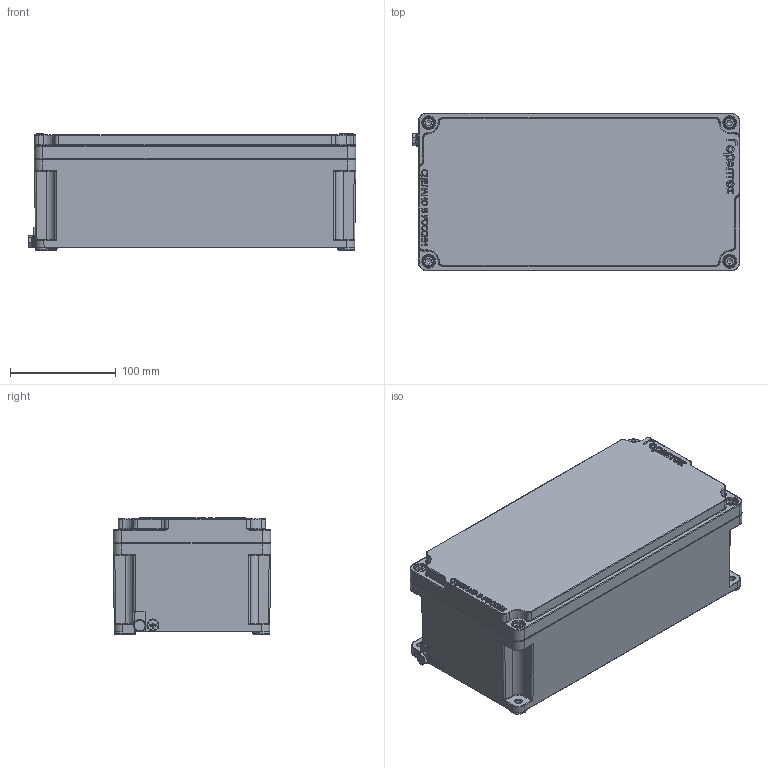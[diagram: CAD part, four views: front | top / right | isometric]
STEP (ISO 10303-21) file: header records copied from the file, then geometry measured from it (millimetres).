
FILE_DESCRIPTION((''),'2;1');
FILE_NAME('\\192.168.5.25\cortem_klient\INVENTOR БАЗА МОДЕЛЕЙ\Актуальная база моделей для отдела продаж\КСРВ\КСРВ301410_М1.stp','2019-04-09T11:28:50',('A.S.Kozlov'),(''),'Autodesk Inventor 2012','Autodesk Inventor 2012','');
FILE_SCHEMA(('CONFIG_CONTROL_DESIGN'));
Length unit declared in the file: millimetre
Products named in the file (1): КСРВ301410_М1_Внешний контур_1
Bounding box: 310.31 x 149.43 x 110 mm (x, y, z)
Surface area: 381143.7 mm2 (no closed solid volume)
Topology: 0 solids, 17 shells, 1778 faces, 4248 edges, 2548 vertices
Faces by surface type: bspline 611, plane 537, cylinder 401, torus 143, cone 74, sphere 12
Full cylindrical faces by diameter (mm): 4.1 x6, 4.567 x1, 4.9 x5, 5 x1, 5.3 x1, 5.459 x1, 6 x5, 6.4 x1, 6.5 x2, 6.7 x1, 8.7 x1, 10 x7, 11.4 x2, 12 x1
Entity records: 77512 total; most frequent: CARTESIAN_POINT 38481, ORIENTED_EDGE 8094, DIRECTION 6586, EDGE_CURVE 4047, VERTEX_POINT 2532, AXIS2_PLACEMENT_3D 2365, EDGE_LOOP 2049, VECTOR 1856
